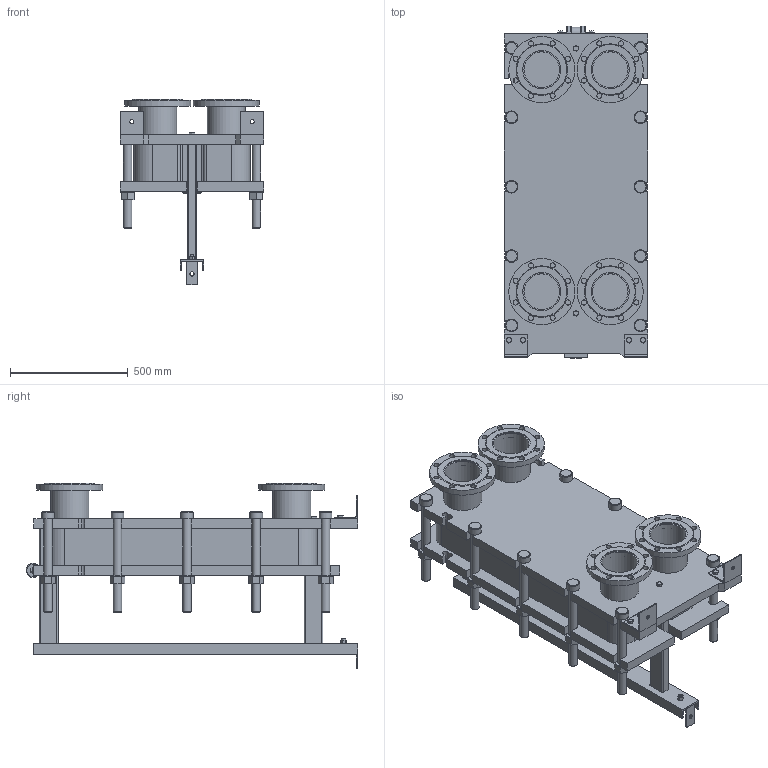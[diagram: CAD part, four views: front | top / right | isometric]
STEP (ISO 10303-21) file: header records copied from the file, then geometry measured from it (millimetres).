
FILE_DESCRIPTION(/* description */ (''),/* implementation_level */ '2;1');
FILE_NAME(/* name */ 'C:\Users\zhuro\Desktop\ENCO\TO\ЭН-041\ЭН-0,5-041-46-1.stp',/* time_stamp */ '2022-06-06T10:52:31+03:00',/* author */ ('zhuro'),/* organization */ (''),/* preprocessor_version */ 'ST-DEVELOPER v18.1',/* originating_system */ 'Autodesk Inventor 2022',/* authorisation */ '');
FILE_SCHEMA (('AUTOMOTIVE_DESIGN { 1 0 10303 214 3 1 1 }'));
Length unit declared in the file: millimetre
Products named in the file (1): ЭН-0,5-041-46-1
Bounding box: 610 x 1406.5 x 785 mm (x, y, z)
Volume: 165937229.9 mm3; surface area: 7833855.4 mm2
Topology: 52 solids, 52 shells, 711 faces, 1696 edges, 1094 vertices
Faces by surface type: plane 487, cylinder 177, cone 41, torus 6
Full cylindrical faces by diameter (mm): 8 x4, 10 x2, 16 x8, 18 x3, 22 x32, 36 x24, 50 x1, 54 x10, 60 x12, 151 x4, 161 x8, 280 x4
Entity records: 22667 total; most frequent: CARTESIAN_POINT 5230, DIRECTION 3644, ORIENTED_EDGE 3392, EDGE_CURVE 1696, AXIS2_PLACEMENT_3D 1272, LINE 1100, VECTOR 1100, VERTEX_POINT 1094
